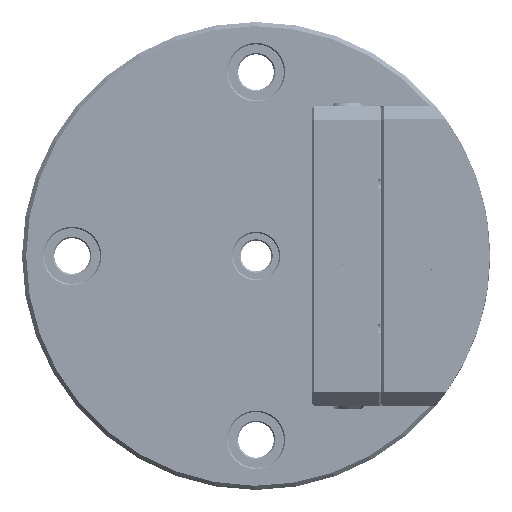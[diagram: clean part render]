
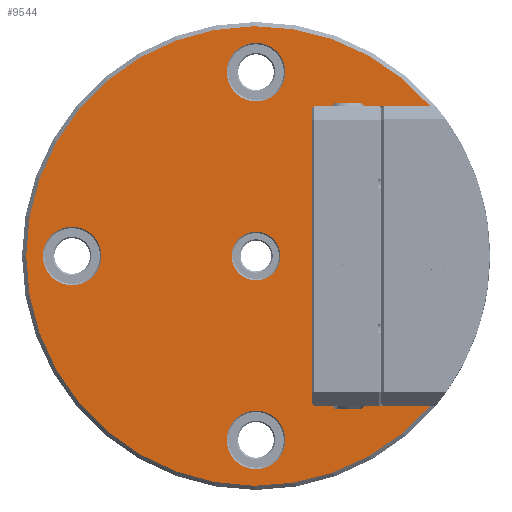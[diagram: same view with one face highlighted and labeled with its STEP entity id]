
A CAD part, left-side view. The second image highlights one B-rep face of the part: STEP entity #9544.
In plain terms, the highlighted planar face has unit normal (-1, 0, 0).
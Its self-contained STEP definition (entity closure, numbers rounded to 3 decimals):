
#150=DIRECTION('',(0.,0.,1.));
#151=VECTOR('',#150,106.);
#152=CARTESIAN_POINT('',(0.,-20.,-53.));
#153=LINE('',#152,#151);
#228=DIRECTION('',(0.,1.,0.));
#229=VECTOR('',#228,35.23);
#230=CARTESIAN_POINT('',(0.,-62.372,
-54.));
#231=LINE('',#230,#229);
#367=CARTESIAN_POINT('',(0.,0.,0.));
#368=DIRECTION('',(-1.,0.,0.));
#369=DIRECTION('',(0.,-0.756,0.655));
#370=AXIS2_PLACEMENT_3D('',#367,#368,#369);
#387=CARTESIAN_POINT('',(0.,-27.141,
54.));
#388=CARTESIAN_POINT('',(0.,-26.278,
53.763));
#389=CARTESIAN_POINT('',(0.,-24.596,
53.382));
#390=CARTESIAN_POINT('',(0.,-22.261,
53.067));
#391=CARTESIAN_POINT('',(0.,-20.743,53.));
#392=CARTESIAN_POINT('',(0.,-20.,53.));
#394=CARTESIAN_POINT('',(0.,-20.,-53.));
#395=CARTESIAN_POINT('',(0.,-20.763,-53.));
#396=CARTESIAN_POINT('',(0.,-22.309,
-53.071));
#397=CARTESIAN_POINT('',(0.,-24.64,
-53.39));
#398=CARTESIAN_POINT('',(0.,-26.297,
-53.768));
#399=CARTESIAN_POINT('',(0.,-27.141,
-54.));
#401=CARTESIAN_POINT('',(0.,0.,66.));
#402=DIRECTION('',(-1.,0.,0.));
#403=DIRECTION('',(0.,0.,-1.));
#404=AXIS2_PLACEMENT_3D('',#401,#402,#403);
#406=CARTESIAN_POINT('',(0.,0.,66.));
#407=DIRECTION('',(-1.,0.,0.));
#408=DIRECTION('',(0.,0.,1.));
#409=AXIS2_PLACEMENT_3D('',#406,#407,#408);
#411=CARTESIAN_POINT('',(0.,66.,0.));
#412=DIRECTION('',(-1.,0.,0.));
#413=DIRECTION('',(0.,0.,-1.));
#414=AXIS2_PLACEMENT_3D('',#411,#412,#413);
#416=CARTESIAN_POINT('',(0.,66.,0.));
#417=DIRECTION('',(-1.,0.,0.));
#418=DIRECTION('',(0.,0.,1.));
#419=AXIS2_PLACEMENT_3D('',#416,#417,#418);
#421=CARTESIAN_POINT('',(0.,0.,-66.));
#422=DIRECTION('',(-1.,0.,0.));
#423=DIRECTION('',(0.,0.,1.));
#424=AXIS2_PLACEMENT_3D('',#421,#422,#423);
#426=CARTESIAN_POINT('',(0.,0.,-66.));
#427=DIRECTION('',(-1.,0.,0.));
#428=DIRECTION('',(0.,0.,-1.));
#429=AXIS2_PLACEMENT_3D('',#426,#427,#428);
#431=CARTESIAN_POINT('',(0.,0.,0.));
#432=DIRECTION('',(-1.,0.,0.));
#433=DIRECTION('',(0.,0.,-1.));
#434=AXIS2_PLACEMENT_3D('',#431,#432,#433);
#436=CARTESIAN_POINT('',(0.,0.,0.));
#437=DIRECTION('',(-1.,0.,0.));
#438=DIRECTION('',(0.,0.,1.));
#439=AXIS2_PLACEMENT_3D('',#436,#437,#438);
#441=DIRECTION('',(0.,-1.,0.));
#442=VECTOR('',#441,35.23);
#443=CARTESIAN_POINT('',(0.,-27.141,
54.));
#444=LINE('',#443,#442);
#7686=CARTESIAN_POINT('',(0.,-20.,-53.));
#7687=VERTEX_POINT('',#7686);
#7688=CARTESIAN_POINT('',(0.,-20.,53.));
#7689=VERTEX_POINT('',#7688);
#7697=CARTESIAN_POINT('',(0.,-27.141,
-54.));
#7698=VERTEX_POINT('',#7697);
#7701=CARTESIAN_POINT('',(0.,-62.372,
-54.));
#7702=VERTEX_POINT('',#7701);
#7703=CARTESIAN_POINT('',(0.,-27.141,
54.));
#7704=CARTESIAN_POINT('',(0.,-62.372,
54.));
#7705=VERTEX_POINT('',#7703);
#7706=VERTEX_POINT('',#7704);
#7707=CARTESIAN_POINT('',(0.,0.,55.5));
#7708=CARTESIAN_POINT('',(0.,0.,76.5));
#7709=VERTEX_POINT('',#7707);
#7710=VERTEX_POINT('',#7708);
#7711=CARTESIAN_POINT('',(0.,66.,-10.5));
#7712=CARTESIAN_POINT('',(0.,66.,10.5));
#7713=VERTEX_POINT('',#7711);
#7714=VERTEX_POINT('',#7712);
#7715=CARTESIAN_POINT('',(0.,0.,-55.5));
#7716=CARTESIAN_POINT('',(0.,0.,-76.5));
#7717=VERTEX_POINT('',#7715);
#7718=VERTEX_POINT('',#7716);
#7719=CARTESIAN_POINT('',(0.,0.,-8.75));
#7720=CARTESIAN_POINT('',(0.,0.,8.75));
#7721=VERTEX_POINT('',#7719);
#7722=VERTEX_POINT('',#7720);
#9505=CARTESIAN_POINT('',(0.,0.,0.));
#9506=DIRECTION('',(1.,0.,0.));
#9507=DIRECTION('',(0.,-1.,0.));
#9508=AXIS2_PLACEMENT_3D('',#9505,#9506,#9507);
#9509=PLANE('',#9508);
#9510=ORIENTED_EDGE('',*,*,#9493,.F.);
#9512=ORIENTED_EDGE('',*,*,#9511,.F.);
#9514=ORIENTED_EDGE('',*,*,#9513,.T.);
#9515=ORIENTED_EDGE('',*,*,#9374,.F.);
#9516=ORIENTED_EDGE('',*,*,#9400,.T.);
#9517=ORIENTED_EDGE('',*,*,#9428,.F.);
#9518=EDGE_LOOP('',(#9510,#9512,#9514,#9515,#9516,#9517));
#9519=FACE_OUTER_BOUND('',#9518,.F.);
#9521=ORIENTED_EDGE('',*,*,#9520,.T.);
#9523=ORIENTED_EDGE('',*,*,#9522,.T.);
#9524=EDGE_LOOP('',(#9521,#9523));
#9525=FACE_BOUND('',#9524,.F.);
#9527=ORIENTED_EDGE('',*,*,#9526,.T.);
#9529=ORIENTED_EDGE('',*,*,#9528,.T.);
#9530=EDGE_LOOP('',(#9527,#9529));
#9531=FACE_BOUND('',#9530,.F.);
#9533=ORIENTED_EDGE('',*,*,#9532,.T.);
#9535=ORIENTED_EDGE('',*,*,#9534,.T.);
#9536=EDGE_LOOP('',(#9533,#9535));
#9537=FACE_BOUND('',#9536,.F.);
#9539=ORIENTED_EDGE('',*,*,#9538,.T.);
#9541=ORIENTED_EDGE('',*,*,#9540,.T.);
#9542=EDGE_LOOP('',(#9539,#9541));
#9543=FACE_BOUND('',#9542,.F.);
#9544=ADVANCED_FACE('',(#9519,#9525,#9531,#9537,#9543),#9509,.F.);
#371=CIRCLE('',#370,82.5);
#393=B_SPLINE_CURVE_WITH_KNOTS('',3,(#387,#388,#389,#390,#391,#392),
.UNSPECIFIED.,.F.,.F.,(4,1,1,4),(0.,0.333,0.667,1.),
.UNSPECIFIED.);
#400=B_SPLINE_CURVE_WITH_KNOTS('',3,(#394,#395,#396,#397,#398,#399),
.UNSPECIFIED.,.F.,.F.,(4,1,1,4),(0.,0.333,0.667,1.),
.UNSPECIFIED.);
#405=CIRCLE('',#404,10.5);
#410=CIRCLE('',#409,10.5);
#415=CIRCLE('',#414,10.5);
#420=CIRCLE('',#419,10.5);
#425=CIRCLE('',#424,10.5);
#430=CIRCLE('',#429,10.5);
#435=CIRCLE('',#434,8.75);
#440=CIRCLE('',#439,8.75);
#9374=EDGE_CURVE('',#7687,#7689,#153,.T.);
#9400=EDGE_CURVE('',#7687,#7698,#400,.T.);
#9428=EDGE_CURVE('',#7702,#7698,#231,.T.);
#9493=EDGE_CURVE('',#7706,#7702,#371,.T.);
#9511=EDGE_CURVE('',#7705,#7706,#444,.T.);
#9513=EDGE_CURVE('',#7705,#7689,#393,.T.);
#9520=EDGE_CURVE('',#7709,#7710,#405,.T.);
#9522=EDGE_CURVE('',#7710,#7709,#410,.T.);
#9526=EDGE_CURVE('',#7713,#7714,#415,.T.);
#9528=EDGE_CURVE('',#7714,#7713,#420,.T.);
#9532=EDGE_CURVE('',#7717,#7718,#425,.T.);
#9534=EDGE_CURVE('',#7718,#7717,#430,.T.);
#9538=EDGE_CURVE('',#7721,#7722,#435,.T.);
#9540=EDGE_CURVE('',#7722,#7721,#440,.T.);
